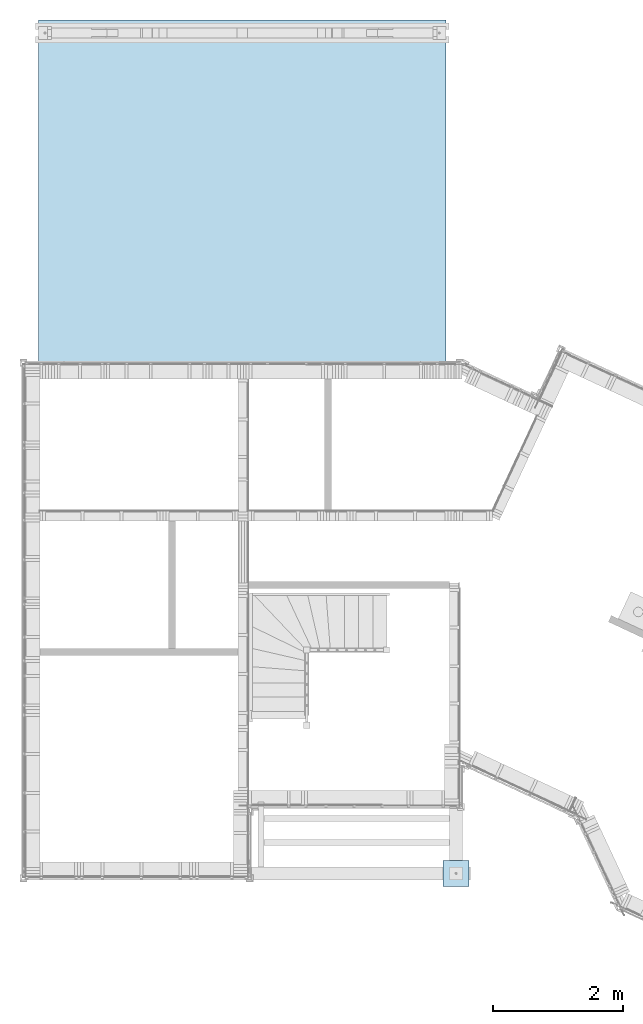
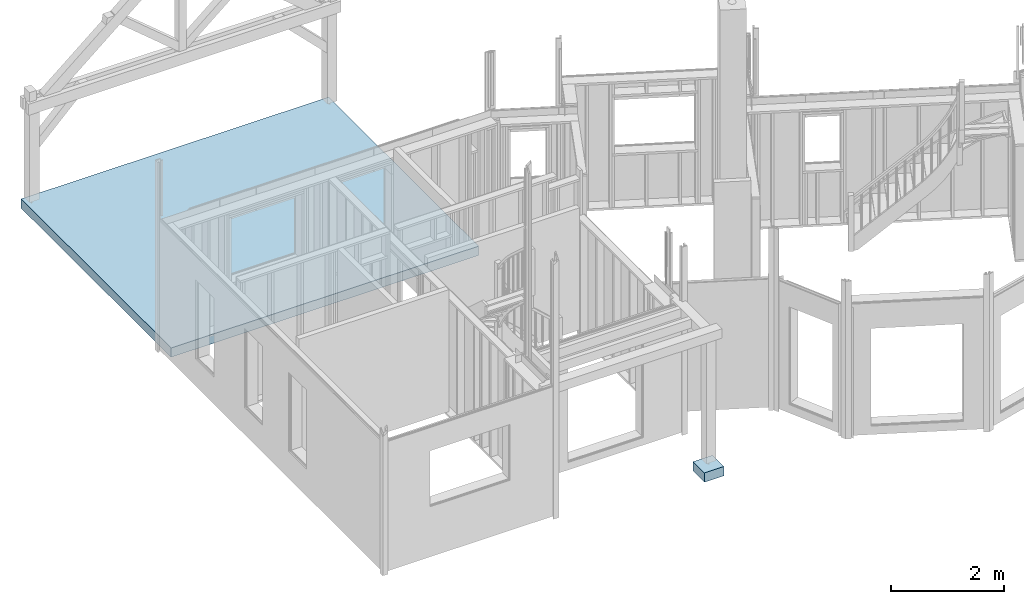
# One storey, part 3 of 34: 2 footings.
"""IFC2X3 building model written with IfcOpenShell, lengths in metres."""

from ifc_helpers import new_model, si_unit, direction, frame, origin_with_axes, place, context, subcontext, project, spatial, faceted_brep, material, element, save


model = new_model("IFC2X3")

# Units and contexts
model_context = context("Model", 3, precision=1e-06, world=origin_with_axes(), true_north=direction((0.0, 1.0, 0.0)))
body_context = subcontext(model_context, "Body", "Model", "MODEL_VIEW")
ifc_project = project(units=[si_unit("LENGTHUNIT", "METRE"), si_unit("AREAUNIT", "SQUARE_METRE"), si_unit("VOLUMEUNIT", "CUBIC_METRE"), si_unit("PLANEANGLEUNIT", "RADIAN")], contexts=[model_context])

# Site, building, storey
site_placement = place(None, origin_with_axes())
site = spatial("IfcSite", under=ifc_project, at=site_placement, CompositionType="ELEMENT")
building_placement = place(site_placement, origin_with_axes())
building = spatial("IfcBuilding", under=site, at=building_placement, Name="Building 1", CompositionType="ELEMENT")
storey_placement = place(building_placement, origin_with_axes())
storey = spatial("IfcBuildingStorey", under=building, at=storey_placement, Name="Rez de chaussée", CompositionType="ELEMENT", Elevation=0.0)

# Footings
ifc_material = material(Name="Béton")
footing_1_placement = place(storey_placement, frame((3.354, 7.908, -0.2), z_axis=(0.0, 0.0, -1.0), x_axis=(0.0, 1.0, 0.0)))
element("IfcFooting", 1, at=footing_1_placement, inside=storey, material=ifc_material, Name="Dalle", PredefinedType="NOTDEFINED", context=body_context, shape_type="Brep", body=[
    faceted_brep([(0.0, 3.14, -0.1), (5.3065, 3.14, -0.1), (5.3065, -3.14, -0.1), (0.0, -3.14, -0.1), (0.0, 3.14, 0.1), (0.0, -3.14, 0.1), (5.3065, 3.14, 0.1), (5.3065, -3.14, 0.1)], [[[0, 1, 2, 3]], [[4, 0, 3, 5]], [[6, 4, 5, 7]], [[2, 7, 5, 3]], [[1, 6, 7, 2]], [[6, 1, 0, 4]]]),
])
footing_2_placement = place(storey_placement, frame((6.652, -0.144, -0.2), z_axis=(0.0, 0.0, -1.0), x_axis=(0.0, 1.0, 0.0)))
element("IfcFooting", 2, at=footing_2_placement, inside=storey, material=ifc_material, Name="Dalle", PredefinedType="NOTDEFINED", context=body_context, shape_type="Brep", body=[
    faceted_brep([(0.0, 0.2, -0.1), (0.0, 0.2, 0.1), (0.4, 0.2, 0.1), (0.4, 0.2, -0.1), (0.0, -0.2, 0.1), (0.4, -0.2, 0.1), (0.0, -0.2, -0.1), (0.4, -0.2, -0.1)], [[[0, 1, 2, 3]], [[2, 1, 4, 5]], [[1, 0, 6, 4]], [[4, 6, 7, 5]], [[0, 3, 7, 6]], [[3, 2, 5, 7]]]),
])

save(model, "model.ifc")
